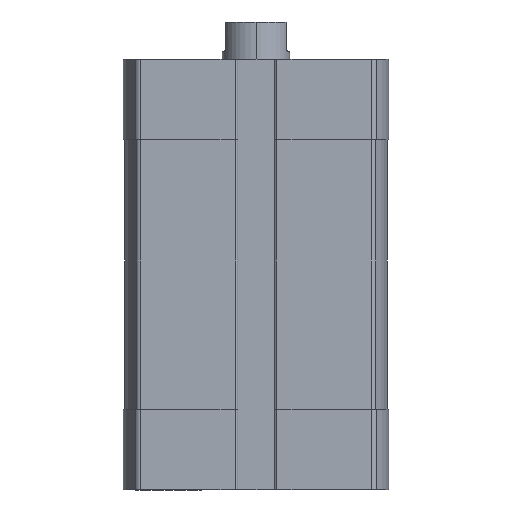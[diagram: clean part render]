
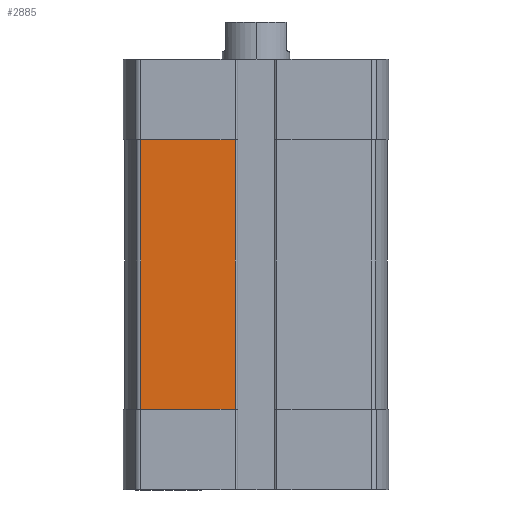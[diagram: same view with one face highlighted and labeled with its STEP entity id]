
A CAD part, left-side view. The second image highlights one B-rep face of the part: STEP entity #2885.
In plain terms, the highlighted planar face has unit normal (-1, 0, 0).
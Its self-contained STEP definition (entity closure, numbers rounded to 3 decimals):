
#384 = DIRECTION ( 'NONE',  ( 0., 0., 1. ) ) ;
#632 = PLANE ( 'NONE',  #8528 ) ;
#2152 = LINE ( 'NONE', #11378, #12340 ) ;
#2270 = VERTEX_POINT ( 'NONE', #9782 ) ;
#2413 = VERTEX_POINT ( 'NONE', #10008 ) ;
#2650 = EDGE_CURVE ( 'NONE', #12149, #7975, #2152, .T. ) ;
#2698 = DIRECTION ( 'NONE',  ( -1., 0., 0. ) ) ;
#2885 = ADVANCED_FACE ( 'NONE', ( #11858 ), #632, .T. ) ;
#3265 = CARTESIAN_POINT ( 'NONE',  ( -19.5, 17.091, -52. ) ) ;
#4284 = VECTOR ( 'NONE', #384, 1000. ) ;
#4530 = CARTESIAN_POINT ( 'NONE',  ( -19.5, 17.091, -52. ) ) ;
#5316 = DIRECTION ( 'NONE',  ( 0., -1., 0. ) ) ;
#5414 = EDGE_CURVE ( 'NONE', #2270, #2413, #9692, .T. ) ;
#5459 = CARTESIAN_POINT ( 'NONE',  ( -19.5, 3.1, -52. ) ) ;
#5567 = EDGE_CURVE ( 'NONE', #2413, #12149, #8089, .T. ) ;
#5596 = EDGE_LOOP ( 'NONE', ( #13026, #7320, #12384, #9473 ) ) ;
#5982 = DIRECTION ( 'NONE',  ( 0., 1., 0. ) ) ;
#7290 = VECTOR ( 'NONE', #5982, 1000. ) ;
#7320 = ORIENTED_EDGE ( 'NONE', *, *, #12265, .T. ) ;
#7331 = LINE ( 'NONE', #5459, #4284 ) ;
#7975 = VERTEX_POINT ( 'NONE', #9859 ) ;
#8089 = LINE ( 'NONE', #4530, #10795 ) ;
#8528 = AXIS2_PLACEMENT_3D ( 'NONE', #8820, #2698, #9857 ) ;
#8820 = CARTESIAN_POINT ( 'NONE',  ( -19.5, 17.091, -52. ) ) ;
#9473 = ORIENTED_EDGE ( 'NONE', *, *, #5567, .T. ) ;
#9692 = LINE ( 'NONE', #12096, #7290 ) ;
#9782 = CARTESIAN_POINT ( 'NONE',  ( -19.5, 3.1, -12. ) ) ;
#9857 = DIRECTION ( 'NONE',  ( 0., 0., 1. ) ) ;
#9859 = CARTESIAN_POINT ( 'NONE',  ( -19.5, 3.1, -52. ) ) ;
#10008 = CARTESIAN_POINT ( 'NONE',  ( -19.5, 17.091, -12. ) ) ;
#10661 = DIRECTION ( 'NONE',  ( 0., 0., -1. ) ) ;
#10795 = VECTOR ( 'NONE', #10661, 1000. ) ;
#11378 = CARTESIAN_POINT ( 'NONE',  ( -19.5, 17.091, -52. ) ) ;
#11858 = FACE_OUTER_BOUND ( 'NONE', #5596, .T. ) ;
#12096 = CARTESIAN_POINT ( 'NONE',  ( -19.5, 0., -12. ) ) ;
#12149 = VERTEX_POINT ( 'NONE', #3265 ) ;
#12265 = EDGE_CURVE ( 'NONE', #7975, #2270, #7331, .T. ) ;
#12340 = VECTOR ( 'NONE', #5316, 1000. ) ;
#12384 = ORIENTED_EDGE ( 'NONE', *, *, #5414, .T. ) ;
#13026 = ORIENTED_EDGE ( 'NONE', *, *, #2650, .T. ) ;
